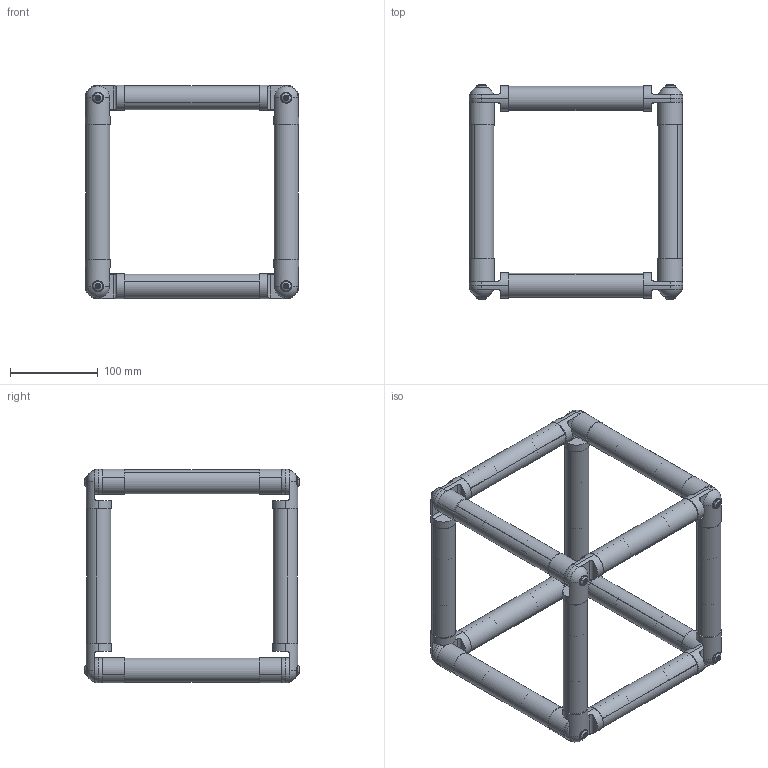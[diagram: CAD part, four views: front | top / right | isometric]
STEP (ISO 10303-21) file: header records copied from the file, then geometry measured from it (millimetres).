
FILE_DESCRIPTION (( 'STEP AP203' ), '1' );
FILE_NAME ('Cube Assembly.STEP', '2013-06-07T19:58:38', ( 'Allred & Associates' ), ( 'Allred & Associates' ), 'SwSTEP 2.0', 'SolidWorks 2013', '' );
FILE_SCHEMA (( 'CONFIG_CONTROL_DESIGN' ));
Length unit declared in the file: inch
Products named in the file (1): Cube Assembly
Bounding box: 242.75 x 244.3 x 242.75 mm (x, y, z)
Volume: 713205.5 mm3; surface area: 582667.7 mm2
Topology: 44 solids, 44 shells, 2088 faces, 4384 edges, 2408 vertices
Faces by surface type: cylinder 928, cone 808, plane 264, torus 48, sphere 40
Entity records: 74437 total; most frequent: CARTESIAN_POINT 31057, DIRECTION 9274, ORIENTED_EDGE 8704, EDGE_CURVE 4352, AXIS2_PLACEMENT_3D 3713, VERTEX_POINT 2408, EDGE_LOOP 2216, ADVANCED_FACE 2088
